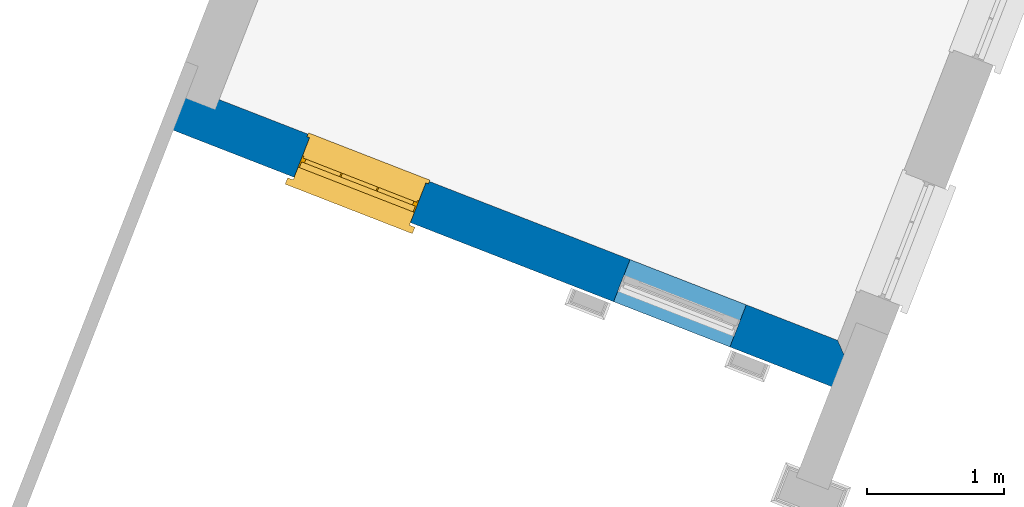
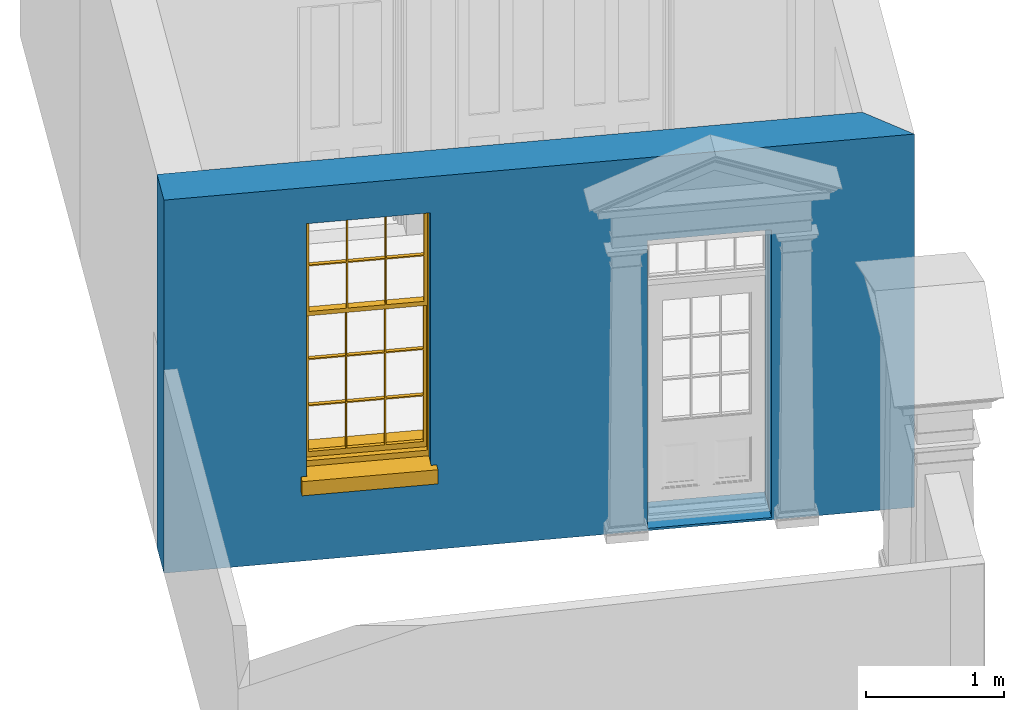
# One storey, part 2 of 7: 1 wall, 1 window, 2 openings.
"""IFC4 building model written with IfcOpenShell, lengths in metres."""

from ifc_helpers import new_model, si_unit, frame, origin, origin_with_axes, place, context, subcontext, project, spatial, polyline, outline, extrude, faceted_brep, source, transform, mapped, material, layer, layer_set, layer_usage, type_object, type_shapes, element, fill, save


model = new_model("IFC4")

# Units and contexts
model_context = context("Model", 3, world=origin_with_axes())
body_context = subcontext(model_context, "Body", "Model", "MODEL_VIEW")
ifc_project = project(units=[si_unit("PLANEANGLEUNIT", "RADIAN"), si_unit("MASSUNIT", "GRAM", prefix="KILO"), si_unit("FORCEUNIT", "NEWTON", prefix="KILO"), si_unit("LENGTHUNIT", "METRE"), si_unit("AREAUNIT", "SQUARE_METRE"), si_unit("VOLUMEUNIT", "CUBIC_METRE")], contexts=[model_context, model_context])

# Sites, building, storey
site_1_placement = place(None, origin_with_axes())
site_1 = spatial("IfcSite", under=ifc_project, at=site_1_placement, Name="Tamar")
site_2_placement = place(site_1_placement, origin_with_axes())
site_2 = spatial("IfcSite", under=site_1, at=site_2_placement, Name="Site plot-10", CompositionType="ELEMENT")
building_placement = place(None, origin_with_axes())
building = spatial("IfcBuilding", under=site_2, at=building_placement, Name="Building plot-10", CompositionType="ELEMENT")
storey_placement = place(None, frame((0.0, 0.0, 26.8), z_axis=(0.0, 0.0, 1.0), x_axis=(1.0, 0.0, 0.0)))
storey = spatial("IfcBuildingStorey", under=building, at=storey_placement, Name="plot-10 0", CompositionType="ELEMENT", Elevation=26.8)

# Wall, openings, window
ifc_material = material(Name="Masonry")
ifc_layer = layer(ifc_material, 0.33, ventilated=False)
ifc_layer_set = layer_set([ifc_layer], Name="exterior_0.08_0.25")
ifc_layer_usage = layer_usage(ifc_layer_set, "AXIS2", "POSITIVE", -0.25)
wall_type = type_object("IfcWallType", Name="exterior_0.08_0.25", PredefinedType="SOLIDWALL", material=ifc_layer_set)
wall_placement = place(storey_placement, frame((230.104635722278, 316.662695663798, 0.0), z_axis=(0.0, 0.0, 1.0), x_axis=(0.931863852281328, -0.362808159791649, 0.0)))
wall = element("IfcWall", 1, at=wall_placement, inside=storey, type_object=wall_type, material=ifc_layer_usage, Name="exterior", context=body_context, shape_type="SweptSolid", body=[
    extrude(outline(polyline([(-0.250000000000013, 0.080000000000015), (-0.249999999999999, -0.249999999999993), (5.24999999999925, -0.249999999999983), (4.91999999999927, 0.0800000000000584), (-0.250000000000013, 0.080000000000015)])), origin_with_axes(), (0.0, 0.0, 1.0), 3.3),
])
opening_1_placement = place(wall_placement, frame((0.794999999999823, 0.0, 0.75)))
opening_1 = element("IfcOpeningElement", 2, at=opening_1_placement, cuts=wall, Name="My Opening", ObjectType="Opening", context=body_context, shape_type="SweptSolid", body=[
    extrude(outline(polyline([(0.0, -0.270000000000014), (0.910000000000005, -0.270000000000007), (0.910000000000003, 1.09999999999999), (-1.66533453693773e-15, 1.09999999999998), (0.0, -0.270000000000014)])), origin_with_axes(), (0.0, 0.0, 1.0), 2.23),
])
opening_2_placement = place(wall_placement, frame((3.29499999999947, 0.0, 0.0199999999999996)))
element("IfcOpeningElement", 3, at=opening_2_placement, cuts=wall, Name="My Opening", ObjectType="Opening", context=body_context, shape_type="SweptSolid", body=[
    extrude(outline(polyline([(0.0, -0.270000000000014), (0.910000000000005, -0.270000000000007), (0.910000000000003, 1.09999999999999), (-1.77635683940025e-15, 1.09999999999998), (0.0, -0.270000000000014)])), origin_with_axes(), (0.0, 0.0, 1.0), 2.545),
])
window_type = type_object("IfcWindowType", Name="sash_big_taller", PartitioningType="DOUBLE_PANEL_HORIZONTAL", PredefinedType="NOTDEFINED")
shared_shape = source(origin(), body_context, "Body", "Brep", [
    faceted_brep([(0.033125, 0.145, 1.385209), (0.01, 0.145, 1.385209), (0.033125, 0.145, 1.786042), (0.876875, 0.145, 1.385209), (0.876875, 0.145, 1.786042), (0.9, 0.145, 1.385209), (0.876875, 0.145, 1.796042), (0.876875, 0.145, 2.196875), (0.9, 0.145, 2.22), (0.033125, 0.145, 2.196875), (0.033125, 0.145, 1.796042), (0.01, 0.145, 2.22), (0.876875, 0.115, 1.786042), (0.876875, 0.115, 1.385209), (0.9, 0.115, 1.347084), (0.033125, 0.115, 2.196875), (0.01, 0.115, 2.22), (0.033125, 0.115, 1.796042), (0.01, 0.115, 1.347084), (0.033125, 0.115, 1.385209), (0.033125, 0.115, 1.786042), (0.876875, 0.115, 2.196875), (0.876875, 0.115, 1.796042), (0.9, 0.115, 2.22), (0.033125, 0.145, 1.347084), (0.01, 0.145, 1.347084), (0.033125, 0.145, 0.94625), (0.876875, 0.145, 1.347084), (0.876875, 0.145, 0.94625), (0.9, 0.145, 1.347084), (0.876875, 0.145, 0.52625), (0.876875, 0.145, 0.125417), (0.9, 0.145, 0.077167), (0.033125, 0.145, 0.125417), (0.033125, 0.145, 0.52625), (0.01, 0.145, 0.077167), (-0.0425, 0.0, 0.01), (-0.0425, -0.05, 0.001667), (0.0, 0.0, 0.01), (0.9525, 0.0, 0.01), (0.91, 0.0, 0.01), (0.9525, -0.05, 0.001667), (-0.02, 0.33, 0.077167), (0.0, 0.33, 0.077167), (-0.02, 0.36, 0.077167), (0.0, 0.19, 0.077167), (0.01, 0.19, 0.077167), (0.91, 0.19, 0.077167), (0.91, 0.33, 0.077167), (0.9, 0.19, 0.077167), (0.93, 0.33, 0.077167), (0.93, 0.36, 0.077167), (0.01, 0.175, 1.385209), (0.9, 0.175, 1.385209), (0.876875, 0.175, 0.125417), (0.876875, 0.175, 0.52625), (0.9, 0.175, 0.077167), (0.876875, 0.175, 0.94625), (0.876875, 0.175, 1.347084), (0.033125, 0.175, 0.125417), (0.01, 0.175, 0.077167), (0.033125, 0.175, 0.52625), (0.033125, 0.175, 1.347084), (0.033125, 0.175, 0.94625), (-0.02, 0.33, 0.052167), (-0.02, 0.36, 0.052167), (0.93, 0.36, 0.052167), (0.93, 0.33, 0.052167), (0.91, 0.33, 0.052167), (0.0, 0.33, 0.052167), (0.91, 0.1, 0.026667), (0.0, 0.1, 0.026667), (-0.0425, -0.05, -0.123333), (0.9525, -0.05, -0.123333), (-0.0425, 0.0, -0.123333), (0.9525, 0.0, -0.123333), (0.01, 0.19, 2.22), (0.9, 0.19, 2.22), (0.0, 0.19, 2.23), (0.91, 0.19, 2.23), (0.01, 0.1, 0.077167), (0.9, 0.1, 0.077167), (0.592292, 0.145, 0.125417), (0.592292, 0.175, 0.125417), (0.317708, 0.175, 0.125417), (0.317708, 0.145, 0.125417), (0.592292, 0.145, 0.53625), (0.317708, 0.145, 0.53625), (0.317708, 0.145, 0.52625), (0.592292, 0.145, 0.52625), (0.592292, 0.175, 0.53625), (0.317708, 0.175, 0.53625), (0.592292, 0.115, 1.796042), (0.592292, 0.145, 1.796042), (0.317708, 0.145, 1.796042), (0.317708, 0.115, 1.796042), (0.317708, 0.115, 1.786042), (0.592292, 0.115, 1.786042), (0.317708, 0.145, 1.786042), (0.592292, 0.145, 1.786042), (0.602292, 0.115, 1.786042), (0.592292, 0.115, 1.385209), (0.602292, 0.115, 1.385209), (0.602292, 0.145, 1.385209), (0.592292, 0.145, 1.385209), (0.602292, 0.145, 1.786042), (0.876875, 0.145, 0.53625), (0.876875, 0.175, 0.53625), (0.602292, 0.175, 0.53625), (0.602292, 0.145, 0.53625), (0.317708, 0.175, 0.52625), (0.307708, 0.175, 0.125417), (0.307708, 0.175, 0.52625), (0.602292, 0.175, 0.52625), (0.602292, 0.175, 0.125417), (0.592292, 0.175, 0.52625), (0.307708, 0.175, 0.53625), (0.033125, 0.175, 0.53625), (0.317708, 0.175, 1.347084), (0.317708, 0.175, 0.94625), (0.307708, 0.175, 0.94625), (0.307708, 0.175, 1.347084), (0.602292, 0.175, 1.347084), (0.602292, 0.175, 0.94625), (0.592292, 0.175, 0.94625), (0.592292, 0.175, 1.347084), (0.307708, 0.145, 0.52625), (0.307708, 0.145, 0.125417), (0.307708, 0.145, 0.53625), (0.033125, 0.145, 0.53625), (0.307708, 0.145, 1.347084), (0.307708, 0.145, 0.94625), (0.592292, 0.145, 1.347084), (0.592292, 0.145, 0.94625), (0.317708, 0.145, 0.94625), (0.317708, 0.145, 1.347084), (0.602292, 0.145, 0.94625), (0.602292, 0.145, 1.347084), (0.602292, 0.145, 0.52625), (0.602292, 0.145, 0.125417), (0.307708, 0.115, 1.796042), (0.307708, 0.115, 1.786042), (0.307708, 0.115, 1.385209), (0.317708, 0.115, 1.385209), (0.317708, 0.115, 2.196875), (0.307708, 0.115, 2.196875), (0.602292, 0.115, 2.196875), (0.592292, 0.115, 2.196875), (0.602292, 0.115, 1.796042), (0.602292, 0.145, 1.796042), (0.307708, 0.145, 1.796042), (0.307708, 0.145, 2.196875), (0.317708, 0.145, 2.196875), (0.592292, 0.145, 2.196875), (0.602292, 0.145, 2.196875), (0.307708, 0.145, 1.786042), (0.317708, 0.145, 1.385209), (0.307708, 0.145, 1.385209), (0.876875, 0.175, 0.93625), (0.033125, 0.175, 0.93625), (0.033125, 0.145, 0.93625), (0.876875, 0.145, 0.93625), (0.91, 0.1, 2.23), (0.9, 0.1, 2.22), (0.01, 0.1, 2.22), (0.0, 0.1, 2.23), (0.91, 0.0, 0.0), (0.0, 0.0, 0.0), (0.91, 0.33, 0.0), (0.0, 0.33, 0.0), (0.317708, 0.145, 0.93625), (0.592292, 0.145, 0.93625), (0.317708, 0.175, 0.93625), (0.307708, 0.175, 0.93625), (0.602292, 0.175, 0.93625), (0.592292, 0.175, 0.93625), (0.307708, 0.145, 0.93625), (0.602292, 0.145, 0.93625)], [[[0, 1, 2]], [[3, 4, 5]], [[6, 7, 8]], [[9, 10, 11]], [[12, 13, 14]], [[15, 16, 17]], [[18, 19, 20]], [[21, 22, 23]], [[24, 25, 26]], [[27, 28, 29]], [[30, 31, 32]], [[33, 34, 35]], [[14, 27, 29]], [[25, 24, 18]], [[36, 37, 38]], [[39, 40, 41]], [[42, 43, 44]], [[45, 46, 43]], [[47, 48, 49]], [[50, 51, 48]], [[1, 0, 52]], [[5, 53, 3]], [[54, 55, 56]], [[57, 58, 53]], [[59, 60, 61]], [[62, 63, 52]], [[48, 43, 46, 49]], [[51, 44, 43, 48]], [[64, 42, 44, 65]], [[65, 44, 51, 66]], [[66, 51, 50, 67]], [[65, 66, 68, 69]], [[60, 56, 49, 46]], [[70, 71, 38, 40]], [[37, 41, 40, 38]], [[37, 72, 73, 41]], [[74, 75, 73, 72]], [[8, 11, 76, 77]], [[76, 78, 79, 77]], [[32, 35, 80, 81]], [[81, 80, 71, 70]], [[82, 83, 84, 85]], [[86, 87, 88, 89]], [[86, 90, 91, 87]], [[92, 93, 94, 95]], [[92, 95, 96, 97]], [[96, 98, 99, 97]], [[100, 97, 101, 102]], [[103, 104, 99, 105]], [[97, 99, 104, 101]], [[102, 103, 105, 100]], [[106, 107, 108, 109]], [[110, 84, 111, 112]], [[113, 114, 83, 115]], [[116, 112, 61, 117]], [[90, 115, 110, 91]], [[118, 119, 120, 121]], [[122, 123, 124, 125]], [[113, 108, 107, 55]], [[126, 112, 111, 127]], [[34, 61, 112, 126]], [[89, 115, 83, 82]], [[88, 110, 115, 89]], [[85, 84, 110, 88]], [[128, 116, 117, 129]], [[130, 121, 120, 131]], [[132, 125, 124, 133]], [[134, 119, 118, 135]], [[136, 123, 122, 137]], [[138, 113, 55, 30]], [[139, 114, 113, 138]], [[138, 30, 106, 109]], [[88, 126, 127, 85]], [[138, 89, 82, 139]], [[137, 132, 133, 136]], [[128, 129, 34, 126]], [[135, 130, 131, 134]], [[140, 17, 20, 141]], [[96, 141, 142, 143]], [[144, 145, 140, 95]], [[146, 147, 92, 148]], [[100, 12, 22, 148]], [[149, 6, 4, 105]], [[94, 150, 151, 152]], [[149, 93, 153, 154]], [[99, 98, 94, 93]], [[155, 2, 10, 150]], [[156, 157, 155, 98]], [[141, 155, 157, 142]], [[20, 2, 155, 141]], [[143, 156, 98, 96]], [[140, 150, 10, 17]], [[145, 151, 150, 140]], [[147, 153, 93, 92]], [[95, 94, 152, 144]], [[22, 6, 149, 148]], [[148, 149, 154, 146]], [[100, 105, 4, 12]], [[109, 86, 89, 138]], [[108, 113, 115, 90]], [[91, 110, 112, 116]], [[87, 128, 126, 88]], [[97, 100, 148, 92]], [[141, 96, 95, 140]], [[98, 155, 150, 94]], [[105, 99, 93, 149]], [[143, 101, 104, 156]], [[135, 118, 125, 132]], [[144, 152, 153, 147]], [[127, 111, 59, 33]], [[15, 9, 151, 145]], [[146, 154, 7, 21]], [[31, 54, 114, 139]], [[36, 74, 72, 37]], [[39, 41, 73, 75]], [[18, 14, 101, 143]], [[23, 16, 144, 147]], [[83, 56, 60, 84]], [[52, 53, 125, 118]], [[53, 52, 156, 104]], [[11, 8, 153, 152]], [[14, 18, 135, 132]], [[2, 1, 11, 10]], [[8, 5, 4, 6]], [[57, 53, 56, 158]], [[60, 52, 63, 159]], [[26, 25, 35, 160]], [[32, 29, 28, 161]], [[14, 23, 22, 12]], [[18, 20, 17, 16]], [[19, 0, 2, 20]], [[17, 10, 9, 15]], [[12, 4, 3, 13]], [[21, 7, 6, 22]], [[27, 58, 57, 28]], [[30, 55, 54, 31]], [[33, 59, 61, 34]], [[26, 63, 62, 24]], [[5, 8, 77, 53]], [[76, 11, 1, 52]], [[46, 45, 78, 76]], [[49, 77, 79, 47]], [[70, 162, 163, 81]], [[71, 80, 164, 165]], [[19, 142, 157, 0]], [[102, 13, 3, 103]], [[121, 130, 24, 62]], [[29, 32, 81, 14]], [[80, 35, 25, 18]], [[60, 46, 76, 52]], [[77, 49, 56, 53]], [[23, 14, 81, 163]], [[16, 164, 80, 18]], [[35, 85, 127]], [[127, 33, 35]], [[139, 82, 32]], [[32, 31, 139]], [[32, 82, 85, 35]], [[102, 101, 14]], [[14, 13, 102]], [[18, 143, 142]], [[142, 19, 18]], [[146, 21, 23]], [[23, 147, 146]], [[16, 15, 145]], [[145, 144, 16]], [[11, 152, 151]], [[151, 9, 11]], [[154, 153, 8]], [[8, 7, 154]], [[23, 163, 164, 16]], [[162, 165, 164, 163]], [[52, 118, 121]], [[121, 62, 52]], [[125, 53, 122]], [[58, 122, 53]], [[27, 137, 122, 58]], [[56, 83, 114]], [[114, 54, 56]], [[111, 84, 60]], [[60, 59, 111]], [[137, 27, 14]], [[14, 132, 137]], [[130, 135, 18]], [[18, 24, 130]], [[157, 156, 52]], [[52, 0, 157]], [[103, 3, 53]], [[53, 104, 103]], [[79, 78, 165, 162]], [[78, 45, 71, 165]], [[162, 70, 47, 79]], [[166, 75, 74, 167]], [[68, 66, 67]], [[48, 68, 67, 50]], [[69, 64, 65]], [[42, 64, 69, 43]], [[69, 68, 168, 169]], [[70, 68, 48, 47]], [[166, 168, 68, 70]], [[43, 69, 71, 45]], [[69, 169, 167, 71]], [[168, 166, 167, 169]], [[38, 167, 74, 36]], [[71, 167, 38]], [[39, 75, 166, 40]], [[40, 166, 70]], [[133, 134, 170, 171]], [[133, 124, 119, 134]], [[28, 57, 123, 136]], [[172, 91, 116, 173]], [[174, 108, 90, 175]], [[120, 173, 159, 63]], [[124, 175, 172, 119]], [[174, 123, 57, 158]], [[176, 173, 116, 128]], [[160, 159, 173, 176]], [[171, 175, 90, 86]], [[170, 172, 175, 171]], [[87, 91, 172, 170]], [[131, 120, 63, 26]], [[177, 174, 158, 161]], [[109, 108, 174, 177]], [[177, 161, 28, 136]], [[170, 176, 128, 87]], [[177, 171, 86, 109]], [[131, 26, 160, 176]], [[136, 133, 171, 177]], [[123, 174, 175, 124]], [[119, 172, 173, 120]], [[134, 131, 176, 170]], [[129, 117, 159, 160]], [[161, 158, 107, 106]], [[35, 34, 129]], [[35, 129, 160]], [[32, 106, 30]], [[32, 161, 106]], [[56, 55, 107]], [[56, 107, 158]], [[60, 117, 61]], [[60, 159, 117]]]),
])
type_shapes(window_type, [shared_shape])
window_placement = place(storey_placement, frame((230.747509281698, 316.122659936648, 0.75), z_axis=(0.0, 0.0, 1.0), x_axis=(0.847996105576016, -0.330155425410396, 0.0)))
window = element("IfcWindow", 4, at=window_placement, inside=storey, type_object=window_type, Name="living outside window", OverallHeight=2.23, OverallWidth=0.91, context=body_context, shape_type="MappedRepresentation", body=[
    mapped(shared_shape, transform((0.0, 0.0, 0.0), scale=1.0)),
])
fill(opening_1, window)

save(model, "model.ifc")
